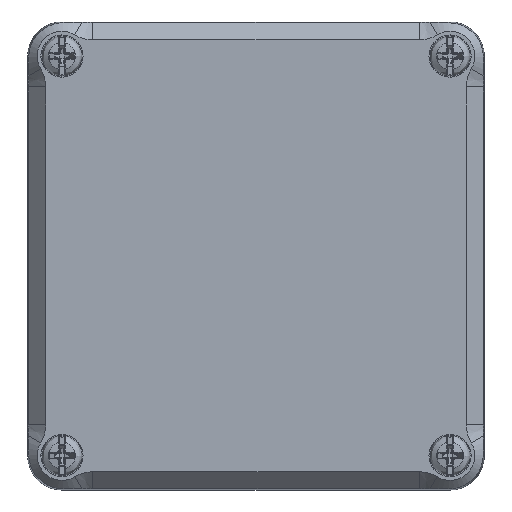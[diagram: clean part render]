
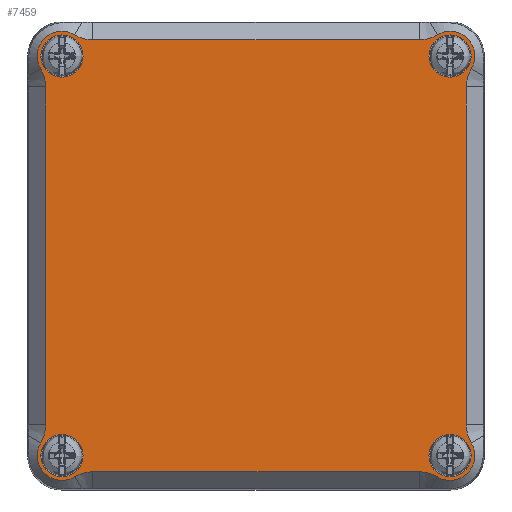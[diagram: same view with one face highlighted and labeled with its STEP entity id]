
A CAD part, top view. The second image highlights one B-rep face of the part: STEP entity #7459.
In plain terms, the highlighted planar face has unit normal (0, 0, 1) as drawn and (0, 0, -1) by its records, which use the part's own axes.
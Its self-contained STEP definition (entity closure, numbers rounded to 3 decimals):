
#6091=CARTESIAN_POINT('',(-37.7,35.0,-7.5));
#6092=VERTEX_POINT('',#6091);
#6093=CARTESIAN_POINT('',(-34.0,35.0,-7.5));
#6094=DIRECTION('',(0.0,0.0,1.0));
#6095=DIRECTION('',(1.0,0.0,0.0));
#6096=AXIS2_PLACEMENT_3D('',#6093,#6094,#6095);
#6097=CIRCLE('',#6096,3.7);
#6098=EDGE_CURVE('',#6092,#6092,#6097,.T.);
#6147=CARTESIAN_POINT('',(30.3,35.0,-7.5));
#6148=VERTEX_POINT('',#6147);
#6149=CARTESIAN_POINT('',(34.0,35.0,-7.5));
#6150=DIRECTION('',(0.0,0.0,1.0));
#6151=DIRECTION('',(1.0,0.0,0.0));
#6152=AXIS2_PLACEMENT_3D('',#6149,#6150,#6151);
#6153=CIRCLE('',#6152,3.7);
#6154=EDGE_CURVE('',#6148,#6148,#6153,.T.);
#6203=CARTESIAN_POINT('',(-37.7,-35.0,-7.5));
#6204=VERTEX_POINT('',#6203);
#6205=CARTESIAN_POINT('',(-34.,-35.0,-7.5));
#6206=DIRECTION('',(0.0,0.0,1.0));
#6207=DIRECTION('',(1.0,0.0,0.0));
#6208=AXIS2_PLACEMENT_3D('',#6205,#6206,#6207);
#6209=CIRCLE('',#6208,3.7);
#6210=EDGE_CURVE('',#6204,#6204,#6209,.T.);
#6259=CARTESIAN_POINT('',(30.3,-35.0,-7.5));
#6260=VERTEX_POINT('',#6259);
#6261=CARTESIAN_POINT('',(34.,-35.0,-7.5));
#6262=DIRECTION('',(0.0,0.0,1.0));
#6263=DIRECTION('',(1.0,0.0,0.0));
#6264=AXIS2_PLACEMENT_3D('',#6261,#6262,#6263);
#6265=CIRCLE('',#6264,3.7);
#6266=EDGE_CURVE('',#6260,#6260,#6265,.T.);
#6293=CARTESIAN_POINT('',(37.722,32.763,-7.5));
#6294=VERTEX_POINT('',#6293);
#6301=CARTESIAN_POINT('',(31.763,38.722,-7.5));
#6302=VERTEX_POINT('',#6301);
#6303=CARTESIAN_POINT('',(34.0,35.0,-7.5));
#6304=DIRECTION('',(0.0,0.0,-1.0));
#6305=DIRECTION('',(1.0,0.0,0.0));
#6306=AXIS2_PLACEMENT_3D('',#6303,#6304,#6305);
#6307=CIRCLE('',#6306,4.343);
#6308=EDGE_CURVE('',#6302,#6294,#6307,.T.);
#6385=CARTESIAN_POINT('',(28.592,37.843,-7.5));
#6386=VERTEX_POINT('',#6385);
#6387=CARTESIAN_POINT('',(28.592,44.0,-7.5));
#6388=DIRECTION('',(0.0,0.0,1.0));
#6389=DIRECTION('',(1.0,0.0,0.0));
#6390=AXIS2_PLACEMENT_3D('',#6387,#6388,#6389);
#6391=CIRCLE('',#6390,6.157);
#6392=EDGE_CURVE('',#6386,#6302,#6391,.T.);
#6425=CARTESIAN_POINT('',(-28.592,37.843,-7.5));
#6426=VERTEX_POINT('',#6425);
#6433=CARTESIAN_POINT('',(-31.763,38.722,-7.5));
#6434=VERTEX_POINT('',#6433);
#6435=CARTESIAN_POINT('',(-28.592,44.0,-7.5));
#6436=DIRECTION('',(0.0,0.0,1.0));
#6437=DIRECTION('',(1.0,0.0,0.0));
#6438=AXIS2_PLACEMENT_3D('',#6435,#6436,#6437);
#6439=CIRCLE('',#6438,6.157);
#6440=EDGE_CURVE('',#6434,#6426,#6439,.T.);
#6472=CARTESIAN_POINT('',(-37.722,32.763,-7.5));
#6473=VERTEX_POINT('',#6472);
#6474=CARTESIAN_POINT('',(-34.0,35.0,-7.5));
#6475=DIRECTION('',(0.0,0.0,-1.0));
#6476=DIRECTION('',(1.0,0.0,0.0));
#6477=AXIS2_PLACEMENT_3D('',#6474,#6475,#6476);
#6478=CIRCLE('',#6477,4.343);
#6479=EDGE_CURVE('',#6473,#6434,#6478,.T.);
#6556=CARTESIAN_POINT('',(-36.843,29.592,-7.5));
#6557=VERTEX_POINT('',#6556);
#6558=CARTESIAN_POINT('',(-43.0,29.592,-7.5));
#6559=DIRECTION('',(0.0,0.0,1.0));
#6560=DIRECTION('',(1.0,0.0,0.0));
#6561=AXIS2_PLACEMENT_3D('',#6558,#6559,#6560);
#6562=CIRCLE('',#6561,6.157);
#6563=EDGE_CURVE('',#6557,#6473,#6562,.T.);
#6596=CARTESIAN_POINT('',(-36.843,-29.592,-7.5));
#6597=VERTEX_POINT('',#6596);
#6604=CARTESIAN_POINT('',(-37.722,-32.763,-7.5));
#6605=VERTEX_POINT('',#6604);
#6606=CARTESIAN_POINT('',(-43.0,-29.592,-7.5));
#6607=DIRECTION('',(0.0,0.0,1.0));
#6608=DIRECTION('',(1.0,0.0,0.0));
#6609=AXIS2_PLACEMENT_3D('',#6606,#6607,#6608);
#6610=CIRCLE('',#6609,6.157);
#6611=EDGE_CURVE('',#6605,#6597,#6610,.T.);
#6635=CARTESIAN_POINT('',(-36.843,-29.592,-7.5));
#6636=DIRECTION('',(0.0,1.0,0.0));
#6637=VECTOR('',#6636,59.184);
#6638=LINE('',#6635,#6637);
#6639=EDGE_CURVE('',#6597,#6557,#6638,.T.);
#6657=CARTESIAN_POINT('',(-28.592,37.843,-7.5));
#6658=DIRECTION('',(1.0,0.0,0.0));
#6659=VECTOR('',#6658,57.183);
#6660=LINE('',#6657,#6659);
#6661=EDGE_CURVE('',#6426,#6386,#6660,.T.);
#6686=CARTESIAN_POINT('',(36.843,29.592,-7.5));
#6687=VERTEX_POINT('',#6686);
#6694=CARTESIAN_POINT('',(43.,29.592,-7.5));
#6695=DIRECTION('',(0.0,0.0,1.0));
#6696=DIRECTION('',(1.0,0.0,0.0));
#6697=AXIS2_PLACEMENT_3D('',#6694,#6695,#6696);
#6698=CIRCLE('',#6697,6.157);
#6699=EDGE_CURVE('',#6294,#6687,#6698,.T.);
#6719=CARTESIAN_POINT('',(36.843,-29.591,-7.5));
#6720=VERTEX_POINT('',#6719);
#6727=CARTESIAN_POINT('',(36.843,29.592,-7.5));
#6728=DIRECTION('',(0.0,-1.0,0.0));
#6729=VECTOR('',#6728,59.183);
#6730=LINE('',#6727,#6729);
#6731=EDGE_CURVE('',#6687,#6720,#6730,.T.);
#6756=CARTESIAN_POINT('',(37.722,-32.763,-7.5));
#6757=VERTEX_POINT('',#6756);
#6764=CARTESIAN_POINT('',(43.,-29.591,-7.5));
#6765=DIRECTION('',(0.0,0.0,1.0));
#6766=DIRECTION('',(1.0,0.0,0.0));
#6767=AXIS2_PLACEMENT_3D('',#6764,#6765,#6766);
#6768=CIRCLE('',#6767,6.157);
#6769=EDGE_CURVE('',#6720,#6757,#6768,.T.);
#6840=CARTESIAN_POINT('',(31.763,-38.722,-7.5));
#6841=VERTEX_POINT('',#6840);
#6848=CARTESIAN_POINT('',(34.,-34.999,-7.5));
#6849=DIRECTION('',(0.0,0.0,-1.0));
#6850=DIRECTION('',(1.0,0.0,0.0));
#6851=AXIS2_PLACEMENT_3D('',#6848,#6849,#6850);
#6852=CIRCLE('',#6851,4.343);
#6853=EDGE_CURVE('',#6757,#6841,#6852,.T.);
#6879=CARTESIAN_POINT('',(28.593,-37.843,-7.5));
#6880=VERTEX_POINT('',#6879);
#6887=CARTESIAN_POINT('',(28.593,-44.0,-7.5));
#6888=DIRECTION('',(0.0,0.0,1.0));
#6889=DIRECTION('',(1.0,0.0,0.0));
#6890=AXIS2_PLACEMENT_3D('',#6887,#6888,#6889);
#6891=CIRCLE('',#6890,6.157);
#6892=EDGE_CURVE('',#6841,#6880,#6891,.T.);
#6912=CARTESIAN_POINT('',(-28.592,-37.843,-7.5));
#6913=VERTEX_POINT('',#6912);
#6920=CARTESIAN_POINT('',(28.593,-37.843,-7.5));
#6921=DIRECTION('',(-1.0,0.0,0.0));
#6922=VECTOR('',#6921,57.185);
#6923=LINE('',#6920,#6922);
#6924=EDGE_CURVE('',#6880,#6913,#6923,.T.);
#6949=CARTESIAN_POINT('',(-31.763,-38.722,-7.5));
#6950=VERTEX_POINT('',#6949);
#6957=CARTESIAN_POINT('',(-28.592,-44.0,-7.5));
#6958=DIRECTION('',(0.0,0.0,1.0));
#6959=DIRECTION('',(1.0,0.0,0.0));
#6960=AXIS2_PLACEMENT_3D('',#6957,#6958,#6959);
#6961=CIRCLE('',#6960,6.157);
#6962=EDGE_CURVE('',#6913,#6950,#6961,.T.);
#7032=CARTESIAN_POINT('',(-33.999,-34.999,-7.5));
#7033=DIRECTION('',(0.0,0.0,-1.0));
#7034=DIRECTION('',(1.0,0.0,0.0));
#7035=AXIS2_PLACEMENT_3D('',#7032,#7033,#7034);
#7036=CIRCLE('',#7035,4.343);
#7037=EDGE_CURVE('',#6950,#6605,#7036,.T.);
#7424=CARTESIAN_POINT('',(0.0,0.0,-7.5));
#7425=DIRECTION('',(0.0,0.0,1.0));
#7426=DIRECTION('',(1.0,0.0,0.0));
#7427=AXIS2_PLACEMENT_3D('',#7424,#7425,#7426);
#7428=PLANE('',#7427);
#7429=ORIENTED_EDGE('',*,*,#6639,.T.);
#7430=ORIENTED_EDGE('',*,*,#6563,.T.);
#7431=ORIENTED_EDGE('',*,*,#6479,.T.);
#7432=ORIENTED_EDGE('',*,*,#6440,.T.);
#7433=ORIENTED_EDGE('',*,*,#6661,.T.);
#7434=ORIENTED_EDGE('',*,*,#6392,.T.);
#7435=ORIENTED_EDGE('',*,*,#6308,.T.);
#7436=ORIENTED_EDGE('',*,*,#6699,.T.);
#7437=ORIENTED_EDGE('',*,*,#6731,.T.);
#7438=ORIENTED_EDGE('',*,*,#6769,.T.);
#7439=ORIENTED_EDGE('',*,*,#6853,.T.);
#7440=ORIENTED_EDGE('',*,*,#6892,.T.);
#7441=ORIENTED_EDGE('',*,*,#6924,.T.);
#7442=ORIENTED_EDGE('',*,*,#6962,.T.);
#7443=ORIENTED_EDGE('',*,*,#7037,.T.);
#7444=ORIENTED_EDGE('',*,*,#6611,.T.);
#7445=EDGE_LOOP('',(#7429,#7430,#7431,#7432,#7433,#7434,#7435,#7436,#7437,#7438,#7439,#7440,#7441,#7442,#7443,#7444));
#7446=FACE_OUTER_BOUND('',#7445,.T.);
#7447=ORIENTED_EDGE('',*,*,#6098,.T.);
#7448=EDGE_LOOP('',(#7447));
#7449=FACE_BOUND('',#7448,.T.);
#7450=ORIENTED_EDGE('',*,*,#6154,.T.);
#7451=EDGE_LOOP('',(#7450));
#7452=FACE_BOUND('',#7451,.T.);
#7453=ORIENTED_EDGE('',*,*,#6210,.T.);
#7454=EDGE_LOOP('',(#7453));
#7455=FACE_BOUND('',#7454,.T.);
#7456=ORIENTED_EDGE('',*,*,#6266,.T.);
#7457=EDGE_LOOP('',(#7456));
#7458=FACE_BOUND('',#7457,.T.);
#7459=ADVANCED_FACE('',(#7446,#7449,#7452,#7455,#7458),#7428,.F.);
